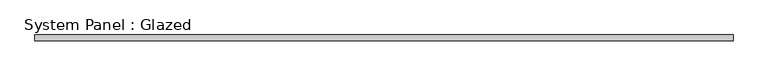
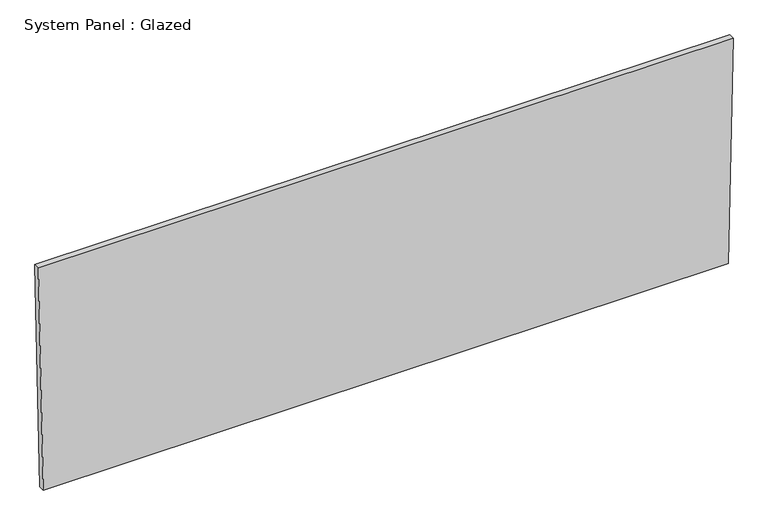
"""IFC4 building model written with IfcOpenShell, lengths in millimetres: plate geometry, System Panel : Glazed."""

from ifc_helpers import new_model, si_unit, frame, origin, place, context, project, spatial, polyline, outline, extrude, source, transform, mapped, element, save


def system_panel_glazed_a47825d1(model_context):
    return source(origin(), model_context, "Body", "SweptSolid", [
        extrude(outline(polyline([(0.0, -1487.1885776), (0.0, 1487.1885776), (1028.7962986, 1508.6830313), (1028.7962986, -1508.6830313), (0.0, -1487.1885776)])), frame((0.0, -44.45, 0.0), z_axis=(0.0, 1.0, 0.0), x_axis=(0.0, 0.0, 1.0)), (0.0, 0.0, 1.0), 25.4),
    ])


if __name__ == "__main__":
    model = new_model("IFC4")
    model_context = context("Model", 3, world=origin())
    ifc_project = project(units=[si_unit("LENGTHUNIT", "METRE", prefix="MILLI")], contexts=[model_context])
    site = spatial("IfcSite", under=ifc_project)
    building = spatial("IfcBuilding", under=site)
    placement = place(None, origin())
    system_panel_glazed_shape = system_panel_glazed_a47825d1(model_context)
    element("IfcPlate", 1, ObjectType="System Panel : Glazed", at=placement, inside=building, context=model_context, shape_type="MappedRepresentation", body=[
        mapped(system_panel_glazed_shape, transform((0.0, 0.0, 0.0), x_axis=(1.0, 0.0, 0.0), y_axis=(0.0, 1.0, 0.0), z_axis=(0.0, 0.0, 1.0))),
    ])
    save(model, "model.ifc")
